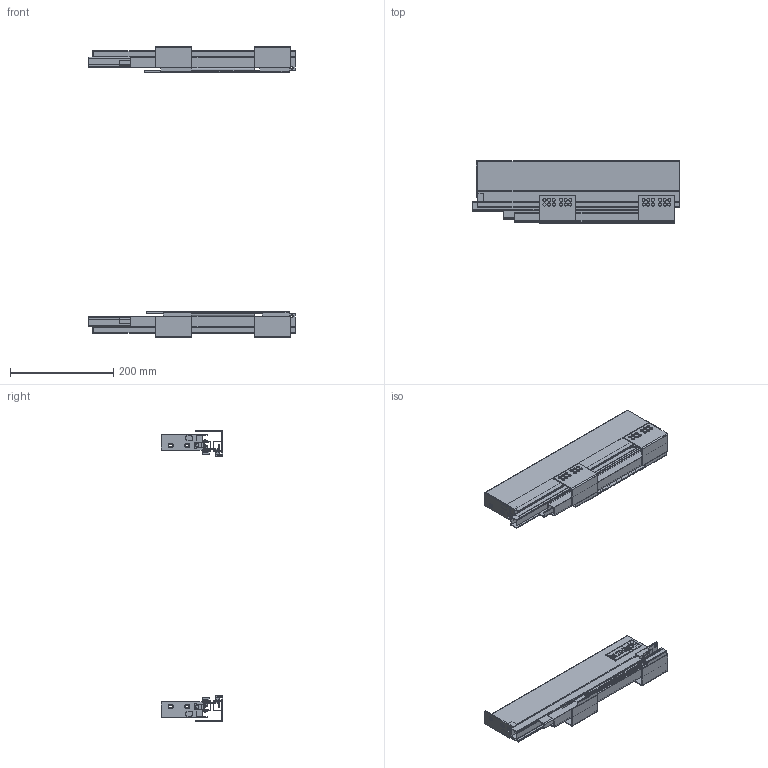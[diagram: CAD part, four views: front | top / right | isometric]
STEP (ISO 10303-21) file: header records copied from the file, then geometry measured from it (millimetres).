
FILE_DESCRIPTION(/* description */ (''),/* implementation_level */ '2;1');
FILE_NAME(/* name */ 'C:\Users\dmitruk\Documents\WORK\\X2\041D0410041F042004100412041B042F042E042904180415\X0\\SLIMBOX\SLIMBOX\SLIMBOX H90 L-400.stp',/* time_stamp */ '2022-04-19T17:17:25+03:00',/* author */ ('dmitruk'),/* organization */ ('AKS'),/* preprocessor_version */ 'ST-DEVELOPER v16.5',/* originating_system */ 'Autodesk Inventor 2017',/* authorisation */ '');
FILE_SCHEMA (('AUTOMOTIVE_DESIGN { 1 0 10303 214 3 1 1 }'));
Length unit declared in the file: millimetre
Products named in the file (12): SLIMBOX 90 мм правый; Боковина SLIMBOX _2; Направляющие \X2\0441043A
0440044B0442043E0433043E\X0\ монтажа \X2\043F
043E043B043D043E0433043E\X0\ \X2\0432044B04340432043804360435043D0438044F
\X0\ SLIMBOX-01; CR SLIMBOX-400; DR SLIMBOX; Крепление \X2\04440430
0441043004340430\X0\ SLIMBOX прав; CR SLIMBOX-500; DL SLIMBOX; Крепление \X2\04440430
0441043004340430\X0\ SLIMBOX лев; slim DW; Крепление к 
фасаду; Заглушка SLIMBOX
Assembly tree (14 placements, depth 3):
  SLIMBOX 90 мм правый
    Боковина SLIMBOX _2
    Направляющие \X2\0441043A
0440044B0442043E0433043E\X0\ монтажа \X2\043F
043E043B043D043E0433043E\X0\ \X2\0432044B04340432043804360435043D0438044F
\X0\ SLIMBOX-01
      CR SLIMBOX-400
      DR SLIMBOX
      slim DW  x2
      Крепление \X2\04440430
0441043004340430\X0\ SLIMBOX прав
      CR SLIMBOX-500
      DL SLIMBOX
      Крепление \X2\04440430
0441043004340430\X0\ SLIMBOX лев
    Крепление к 
фасаду  x2
    Заглушка SLIMBOX  x2
Bounding box: 400 x 119.5 x 564 mm (x, y, z)
Volume: 466105.2 mm3; surface area: 652184.5 mm2
Topology: 30 solids, 30 shells, 1319 faces, 3623 edges, 2419 vertices
Faces by surface type: plane 957, cylinder 346, cone 16
Full cylindrical faces by diameter (mm): 3 x2, 3.8 x4, 4 x4, 4.8 x4, 6 x48, 7.603 x4, 7.801 x2, 8.085 x2, 10.37 x2, 11 x4, 12.231 x2
Entity records: 34756 total; most frequent: CARTESIAN_POINT 5931, ORIENTED_EDGE 5734, DIRECTION 5631, EDGE_CURVE 2867, LINE 2333, VECTOR 2333, VERTEX_POINT 1949, AXIS2_PLACEMENT_3D 1649
